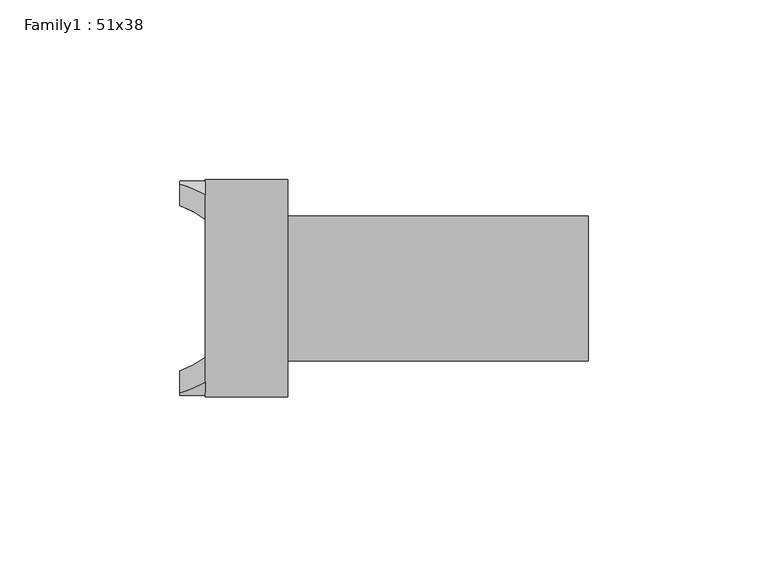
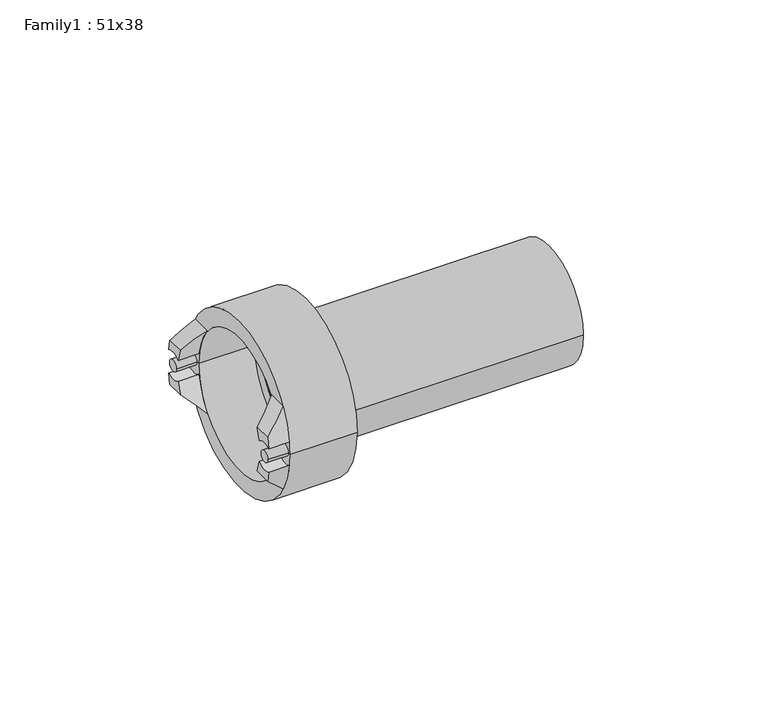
"""IFC4 building model written with IfcOpenShell, lengths in millimetres: proxy geometry, Family1 : 51x38."""

from ifc_helpers import new_model, si_unit, point, frame, frame_2d, origin, place, context, project, spatial, polyline, circle_curve, ellipse_curve, trimmed, segment, composite_curve, outline, extrude, source, transform, mapped, element, save
from ifc_brep_helpers import plane_surface, cylinder_surface, revolved_surface, advanced_brep


def family1_51x38_9dc83d4e(model_context):
    return source(origin(), model_context, "Body", "SolidModel", [
        advanced_brep(
        [(-113.7, -24.0455963, 3.8382023), (-113.7, -29.8455963, 4.2735091), (-113.7, -29.0857164, 7.94), (-113.7, -23.0190986, 7.94), (-106.6, -26.1538238, 15.0), (-106.6, -29.8455963, 4.2735091), (-106.6, -24.0455963, 3.8382023), (-106.6, -19.181306, 15.0)],
        [
            (0, 1, circle_curve(frame((-113.7, -27.25, 0.0), z_axis=(1.0, 0.0, 0.0), x_axis=(0.0, 1.0, 0.0)), 5.0)),
            (1, 2, circle_curve(frame((-113.7, 0.0, 0.0), z_axis=(-1.0, 0.0, 0.0), x_axis=(0.0, 1.0, 0.0)), 30.15)),
            (2, 3),
            (3, 0, circle_curve(frame((-113.7, 0.0, 0.0), z_axis=(1.0, 0.0, 0.0), x_axis=(0.0, 1.0, 0.0)), 24.35)),
            (4, 5, circle_curve(frame((-106.6, 0.0, 0.0), z_axis=(1.0, 0.0, 0.0), x_axis=(0.0, 1.0, 0.0)), 30.15)),
            (5, 6, circle_curve(frame((-106.6, -27.25, 0.0), z_axis=(-1.0, 0.0, 0.0), x_axis=(0.0, 1.0, 0.0)), 5.0)),
            (6, 7, circle_curve(frame((-106.6, 0.0, 0.0), z_axis=(-1.0, 0.0, 0.0), x_axis=(0.0, 1.0, 0.0)), 24.35)),
            (7, 4),
            (6, 0),
            (3, 7, ellipse_curve(frame((-121.6849858, 0.0, 0.0), z_axis=(-0.705106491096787, 0.0, 0.7091014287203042), x_axis=(0.7091014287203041, 0.0, 0.705106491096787)), 34.5337907, 24.35)),
            (4, 2, ellipse_curve(frame((-121.6849858, 0.0, 0.0), z_axis=(0.705106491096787, 0.0, -0.7091014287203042), x_axis=(-0.7091014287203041, 0.0, -0.705106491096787)), 42.7594986, 30.15)),
            (1, 5),
        ],
        [
            plane_surface(frame((-113.7, -26.1538238, 15.0), z_axis=(-1.0, 0.0, 0.0), x_axis=(0.0, 1.0, 0.0))),
            plane_surface(frame((-106.6, -26.1538238, 15.0), z_axis=(1.0, 0.0, 0.0), x_axis=(0.0, -1.0, 0.0))),
            revolved_surface(polyline([(-97.19702547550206, 24.35, 0.0), (-146.17294612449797, 24.35, 0.0)]), (-106.6, 0.0, 0.0), (1.0, 0.0, 0.0)),
            cylinder_surface(frame((-106.6, 0.0, 0.0), z_axis=(-1.0, 0.0, 0.0), x_axis=(0.0, 1.0, 0.0)), 30.15),
            revolved_surface(polyline([(-113.7, -22.25, 0.0), (-106.6, -22.25, 0.0)]), (-106.6, -27.25, 0.0), (-1.0, 0.0, 0.0)),
            plane_surface(frame((-106.6, 30.15, 15.0), z_axis=(-0.705106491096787, 0.0, 0.7091014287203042), x_axis=(0.0, -1.0, 0.0))),
        ],
        [
            (0, [[1, 2, 3, 4]]),
            (1, [[5, 6, 7, 8]]),
            (2, [[-7, 9, -4, 10]]),
            (3, [[-5, 11, -2, 12]]),
            (4, [[-1, -9, -6, -12]]),
            (5, [[-3, -11, -8, -10]]),
        ],
    ),
        advanced_brep(
        [(-113.7, -29.8455963, -4.2735091), (-113.7, -24.0455963, -3.8382023), (-113.7, -23.0190986, -7.94), (-113.7, -29.0857164, -7.94), (-106.6, -29.8455963, -4.2735091), (-106.6, -26.1538238, -15.0), (-106.6, -19.181306, -15.0), (-106.6, -24.0455963, -3.8382023)],
        [
            (0, 1, circle_curve(frame((-113.7, -27.25, 0.0), z_axis=(1.0, 0.0, 0.0), x_axis=(0.0, 1.0, 0.0)), 5.0)),
            (1, 2, circle_curve(frame((-113.7, 0.0, 0.0), z_axis=(1.0, 0.0, 0.0), x_axis=(0.0, 1.0, 0.0)), 24.35)),
            (2, 3),
            (3, 0, circle_curve(frame((-113.7, 0.0, 0.0), z_axis=(-1.0, 0.0, 0.0), x_axis=(0.0, 1.0, 0.0)), 30.15)),
            (4, 5, circle_curve(frame((-106.6, 0.0, 0.0), z_axis=(1.0, 0.0, 0.0), x_axis=(0.0, 1.0, 0.0)), 30.15)),
            (5, 6),
            (6, 7, circle_curve(frame((-106.6, 0.0, 0.0), z_axis=(-1.0, 0.0, 0.0), x_axis=(0.0, 1.0, 0.0)), 24.35)),
            (7, 4, circle_curve(frame((-106.6, -27.25, 0.0), z_axis=(-1.0, 0.0, 0.0), x_axis=(0.0, 1.0, 0.0)), 5.0)),
            (6, 2, ellipse_curve(frame((-121.6849858, 0.0, 0.0), z_axis=(-0.7051064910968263, 0.0, -0.7091014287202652), x_axis=(0.7091014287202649, 0.0, -0.7051064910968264)), 34.5337907, 24.35)),
            (1, 7),
            (4, 0),
            (3, 5, ellipse_curve(frame((-121.6849858, 0.0, 0.0), z_axis=(0.7051064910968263, 0.0, 0.7091014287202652), x_axis=(-0.7091014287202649, 0.0, 0.7051064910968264)), 42.7594986, 30.15)),
        ],
        [
            plane_surface(frame((-113.7, -26.1538238, 15.0), z_axis=(-1.0, 0.0, 0.0), x_axis=(0.0, 1.0, 0.0))),
            plane_surface(frame((-106.6, -26.1538238, 15.0), z_axis=(1.0, 0.0, 0.0), x_axis=(0.0, -1.0, 0.0))),
            revolved_surface(polyline([(-97.19702547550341, 24.35, 0.0), (-146.1729461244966, 24.35, 0.0)]), (-106.6, 0.0, 0.0), (1.0, 0.0, 0.0)),
            cylinder_surface(frame((-106.6, 0.0, 0.0), z_axis=(-1.0, 0.0, 0.0), x_axis=(0.0, 1.0, 0.0)), 30.15),
            revolved_surface(polyline([(-113.7, -22.25, 0.0), (-106.6, -22.25, 0.0)]), (-106.6, -27.25, 0.0), (-1.0, 0.0, 0.0)),
            plane_surface(frame((-113.7, 30.15, -7.94), z_axis=(-0.7051064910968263, 0.0, -0.7091014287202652), x_axis=(0.0, -1.0, 0.0))),
        ],
        [
            (0, [[1, 2, 3, 4]]),
            (1, [[5, 6, 7, 8]]),
            (2, [[-7, 9, -2, 10]]),
            (3, [[-5, 11, -4, 12]]),
            (4, [[-1, -11, -8, -10]]),
            (5, [[-3, -9, -6, -12]]),
        ],
    ),
        advanced_brep(
        [(-113.7, 29.8455963, 4.2735091), (-113.7, 24.0455963, 3.8382023), (-113.7, 23.0190986, 7.94), (-113.7, 29.0857164, 7.94), (-106.6, 29.8455963, 4.2735091), (-106.6, 26.1538238, 15.0), (-106.6, 19.181306, 15.0), (-106.6, 24.0455963, 3.8382023)],
        [
            (0, 1, circle_curve(frame((-113.7, 27.25, 0.0), z_axis=(1.0, 0.0, 0.0), x_axis=(0.0, 1.0, 0.0)), 5.0)),
            (1, 2, circle_curve(frame((-113.7, 0.0, 0.0), z_axis=(1.0, 0.0, 0.0), x_axis=(0.0, 1.0, 0.0)), 24.35)),
            (2, 3),
            (3, 0, circle_curve(frame((-113.7, 0.0, 0.0), z_axis=(-1.0, 0.0, 0.0), x_axis=(0.0, 1.0, 0.0)), 30.15)),
            (4, 5, circle_curve(frame((-106.6, 0.0, 0.0), z_axis=(1.0, 0.0, 0.0), x_axis=(0.0, 1.0, 0.0)), 30.15)),
            (5, 6),
            (6, 7, circle_curve(frame((-106.6, 0.0, 0.0), z_axis=(-1.0, 0.0, 0.0), x_axis=(0.0, 1.0, 0.0)), 24.35)),
            (7, 4, circle_curve(frame((-106.6, 27.25, 0.0), z_axis=(-1.0, 0.0, 0.0), x_axis=(0.0, 1.0, 0.0)), 5.0)),
            (6, 2, ellipse_curve(frame((-121.6849858, 0.0, 0.0), z_axis=(-0.705106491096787, 0.0, 0.7091014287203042), x_axis=(0.7091014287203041, 0.0, 0.705106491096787)), 34.5337907, 24.35)),
            (1, 7),
            (4, 0),
            (3, 5, ellipse_curve(frame((-121.6849858, 0.0, 0.0), z_axis=(0.705106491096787, 0.0, -0.7091014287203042), x_axis=(-0.7091014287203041, 0.0, -0.705106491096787)), 42.7594986, 30.15)),
        ],
        [
            plane_surface(frame((-113.7, -26.1538238, 15.0), z_axis=(-1.0, 0.0, 0.0), x_axis=(0.0, 1.0, 0.0))),
            plane_surface(frame((-106.6, -26.1538238, 15.0), z_axis=(1.0, 0.0, 0.0), x_axis=(0.0, -1.0, 0.0))),
            revolved_surface(polyline([(-97.19702547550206, 24.35, 0.0), (-146.17294612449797, 24.35, 0.0)]), (-106.6, 0.0, 0.0), (1.0, 0.0, 0.0)),
            cylinder_surface(frame((-106.6, 0.0, 0.0), z_axis=(-1.0, 0.0, 0.0), x_axis=(0.0, 1.0, 0.0)), 30.15),
            revolved_surface(polyline([(-113.7, 32.25, 0.0), (-106.6, 32.25, 0.0)]), (-106.6, 27.25, 0.0), (-1.0, 0.0, 0.0)),
            plane_surface(frame((-106.6, 30.15, 15.0), z_axis=(-0.705106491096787, 0.0, 0.7091014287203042), x_axis=(0.0, -1.0, 0.0))),
        ],
        [
            (0, [[1, 2, 3, 4]]),
            (1, [[5, 6, 7, 8]]),
            (2, [[-7, 9, -2, 10]]),
            (3, [[-5, 11, -4, 12]]),
            (4, [[-1, -11, -8, -10]]),
            (5, [[-3, -9, -6, -12]]),
        ],
    ),
        advanced_brep(
        [(-113.7, 24.0455963, -3.8382023), (-113.7, 29.8455963, -4.2735091), (-113.7, 29.0857164, -7.94), (-113.7, 23.0190986, -7.94), (-106.6, 26.1538238, -15.0), (-106.6, 29.8455963, -4.2735091), (-106.6, 24.0455963, -3.8382023), (-106.6, 19.181306, -15.0)],
        [
            (0, 1, circle_curve(frame((-113.7, 27.25, 0.0), z_axis=(1.0, 0.0, 0.0), x_axis=(0.0, 1.0, 0.0)), 5.0)),
            (1, 2, circle_curve(frame((-113.7, 0.0, 0.0), z_axis=(-1.0, 0.0, 0.0), x_axis=(0.0, 1.0, 0.0)), 30.15)),
            (2, 3),
            (3, 0, circle_curve(frame((-113.7, 0.0, 0.0), z_axis=(1.0, 0.0, 0.0), x_axis=(0.0, 1.0, 0.0)), 24.35)),
            (4, 5, circle_curve(frame((-106.6, 0.0, 0.0), z_axis=(1.0, 0.0, 0.0), x_axis=(0.0, 1.0, 0.0)), 30.15)),
            (5, 6, circle_curve(frame((-106.6, 27.25, 0.0), z_axis=(-1.0, 0.0, 0.0), x_axis=(0.0, 1.0, 0.0)), 5.0)),
            (6, 7, circle_curve(frame((-106.6, 0.0, 0.0), z_axis=(-1.0, 0.0, 0.0), x_axis=(0.0, 1.0, 0.0)), 24.35)),
            (7, 4),
            (6, 0),
            (3, 7, ellipse_curve(frame((-121.6849858, 0.0, 0.0), z_axis=(-0.7051064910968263, 0.0, -0.7091014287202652), x_axis=(0.7091014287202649, 0.0, -0.7051064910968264)), 34.5337907, 24.35)),
            (4, 2, ellipse_curve(frame((-121.6849858, 0.0, 0.0), z_axis=(0.7051064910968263, 0.0, 0.7091014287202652), x_axis=(-0.7091014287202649, 0.0, 0.7051064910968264)), 42.7594986, 30.15)),
            (1, 5),
        ],
        [
            plane_surface(frame((-113.7, -26.1538238, 15.0), z_axis=(-1.0, 0.0, 0.0), x_axis=(0.0, 1.0, 0.0))),
            plane_surface(frame((-106.6, -26.1538238, 15.0), z_axis=(1.0, 0.0, 0.0), x_axis=(0.0, -1.0, 0.0))),
            revolved_surface(polyline([(-97.19702547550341, 24.35, 0.0), (-146.1729461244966, 24.35, 0.0)]), (-106.6, 0.0, 0.0), (1.0, 0.0, 0.0)),
            cylinder_surface(frame((-106.6, 0.0, 0.0), z_axis=(-1.0, 0.0, 0.0), x_axis=(0.0, 1.0, 0.0)), 30.15),
            revolved_surface(polyline([(-113.7, 32.25, 0.0), (-106.6, 32.25, 0.0)]), (-106.6, 27.25, 0.0), (-1.0, 0.0, 0.0)),
            plane_surface(frame((-113.7, 30.15, -7.94), z_axis=(-0.7051064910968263, 0.0, -0.7091014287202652), x_axis=(0.0, -1.0, 0.0))),
        ],
        [
            (0, [[1, 2, 3, 4]]),
            (1, [[5, 6, 7, 8]]),
            (2, [[-7, 9, -4, 10]]),
            (3, [[-5, 11, -2, 12]]),
            (4, [[-1, -9, -6, -12]]),
            (5, [[-3, -11, -8, -10]]),
        ],
    ),
        extrude(outline(composite_curve([segment(trimmed(circle_curve(frame_2d((-27.25, 0.0)), 2.0), [point((-29.25, 0.0))], [point((-25.25, 0.0))], False, "CARTESIAN"), True, "CONTINUOUS"), segment(trimmed(circle_curve(frame_2d((-27.25, 0.0)), 2.0), [point((-25.25, 0.0))], [point((-29.25, 0.0))], False, "CARTESIAN"), True, "CONTINUOUS")], self_intersect=False)), frame((-113.7, 0.0, 0.0), z_axis=(1.0, 0.0, 0.0), x_axis=(0.0, 1.0, 0.0)), (0.0, 0.0, 1.0), 7.1),
        extrude(outline(composite_curve([segment(trimmed(circle_curve(frame_2d((27.25, 0.0)), 2.0), [point((25.25, 0.0))], [point((29.25, 0.0))], False, "CARTESIAN"), True, "CONTINUOUS"), segment(trimmed(circle_curve(frame_2d((27.25, 0.0)), 2.0), [point((29.25, 0.0))], [point((25.25, 0.0))], False, "CARTESIAN"), True, "CONTINUOUS")], self_intersect=False)), frame((-113.7, 0.0, 0.0), z_axis=(1.0, 0.0, 0.0), x_axis=(0.0, 1.0, 0.0)), (0.0, 0.0, 1.0), 7.1),
        advanced_brep(
        [(-87.3, -20.2, 0.0), (-87.3, 20.2, 0.0), (-87.3, 24.2, 0.0), (-87.3, -24.2, 0.0), (-83.6, -20.2, 0.0), (-83.6, 20.2, 0.0), (-83.6, -30.3, 0.0), (-83.6, 30.3, 0.0), (-106.6, -30.3, 0.0), (-106.6, 30.3, 0.0), (-106.6, -24.2, 0.0), (-106.6, 24.2, 0.0)],
        [
            (0, 1, circle_curve(frame((-87.3, 0.0, 0.0), z_axis=(1.0, 0.0, 0.0), x_axis=(0.0, 1.0, 0.0)), 20.2)),
            (1, 2),
            (2, 3, circle_curve(frame((-87.3, 0.0, 0.0), z_axis=(-1.0, 0.0, 0.0), x_axis=(0.0, 1.0, 0.0)), 24.2)),
            (3, 0),
            (1, 0, circle_curve(frame((-87.3, 0.0, 0.0), z_axis=(1.0, 0.0, 0.0), x_axis=(0.0, 1.0, 0.0)), 20.2)),
            (3, 2, circle_curve(frame((-87.3, 0.0, 0.0), z_axis=(-1.0, 0.0, 0.0), x_axis=(0.0, 1.0, 0.0)), 24.2)),
            (4, 5, circle_curve(frame((-83.6, 0.0, 0.0), z_axis=(1.0, 0.0, 0.0), x_axis=(0.0, 1.0, 0.0)), 20.2)),
            (5, 1),
            (0, 4),
            (5, 4, circle_curve(frame((-83.6, 0.0, 0.0), z_axis=(1.0, 0.0, 0.0), x_axis=(0.0, 1.0, 0.0)), 20.2)),
            (6, 7, circle_curve(frame((-83.6, 0.0, 0.0), z_axis=(1.0, 0.0, 0.0), x_axis=(0.0, 1.0, 0.0)), 30.3)),
            (7, 5),
            (4, 6),
            (7, 6, circle_curve(frame((-83.6, 0.0, 0.0), z_axis=(1.0, 0.0, 0.0), x_axis=(0.0, 1.0, 0.0)), 30.3)),
            (8, 9, circle_curve(frame((-106.6, 0.0, 0.0), z_axis=(1.0, 0.0, 0.0), x_axis=(0.0, 1.0, 0.0)), 30.3)),
            (9, 7),
            (6, 8),
            (9, 8, circle_curve(frame((-106.6, 0.0, 0.0), z_axis=(1.0, 0.0, 0.0), x_axis=(0.0, 1.0, 0.0)), 30.3)),
            (10, 11, circle_curve(frame((-106.6, 0.0, 0.0), z_axis=(1.0, 0.0, 0.0), x_axis=(0.0, 1.0, 0.0)), 24.2)),
            (11, 9),
            (8, 10),
            (11, 10, circle_curve(frame((-106.6, 0.0, 0.0), z_axis=(1.0, 0.0, 0.0), x_axis=(0.0, 1.0, 0.0)), 24.2)),
            (2, 11),
            (10, 3),
        ],
        [
            plane_surface(frame((-87.3, 0.0, 0.0), z_axis=(-1.0, 0.0, 0.0), x_axis=(0.0, 1.0, 0.0))),
            revolved_surface(polyline([(-87.30000000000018, 20.2, 0.0), (-83.59999999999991, 20.2, 0.0)]), (-2620.5826241, 0.0, 0.0), (-1.0, 0.0, 0.0)),
            plane_surface(frame((-83.6, 0.0, 0.0), z_axis=(1.0, 0.0, 0.0), x_axis=(0.0, 1.0, 0.0))),
            cylinder_surface(frame((-2620.5826241, 0.0, 0.0), z_axis=(-1.0, 0.0, 0.0), x_axis=(0.0, 1.0, 0.0)), 30.3),
            plane_surface(frame((-106.6, 0.0, 0.0), z_axis=(-1.0, 0.0, 0.0), x_axis=(0.0, 1.0, 0.0))),
            revolved_surface(polyline([(-106.59999999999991, 24.2, 0.0), (-87.30000000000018, 24.2, 0.0)]), (-2620.5826241, 0.0, 0.0), (-1.0, 0.0, 0.0)),
        ],
        [
            (0, [[1, 2, 3, 4]]),
            (0, [[5, -4, 6, -2]]),
            (1, [[7, 8, -1, 9]]),
            (1, [[10, -9, -5, -8]]),
            (2, [[11, 12, -7, 13]]),
            (2, [[14, -13, -10, -12]]),
            (3, [[15, 16, -11, 17]]),
            (3, [[18, -17, -14, -16]]),
            (4, [[19, 20, -15, 21]]),
            (4, [[22, -21, -18, -20]]),
            (5, [[-3, 23, -19, 24]]),
            (5, [[-6, -24, -22, -23]]),
        ],
    ),
        advanced_brep(
        [(0.0, -20.2, 0.0), (0.0, 20.2, 0.0), (0.0, 0.0, 0.0), (-87.3, -20.2, 0.0), (-87.3, 20.2, 0.0), (-87.3, 0.0, 0.0)],
        [
            (0, 1, circle_curve(frame((0.0, 0.0, 0.0), z_axis=(1.0, 0.0, 0.0), x_axis=(0.0, 1.0, 0.0)), 20.2)),
            (1, 2),
            (2, 0),
            (1, 0, circle_curve(frame((0.0, 0.0, 0.0), z_axis=(1.0, 0.0, 0.0), x_axis=(0.0, 1.0, 0.0)), 20.2)),
            (3, 4, circle_curve(frame((-87.3, 0.0, 0.0), z_axis=(1.0, 0.0, 0.0), x_axis=(0.0, 1.0, 0.0)), 20.2)),
            (4, 1),
            (0, 3),
            (4, 3, circle_curve(frame((-87.3, 0.0, 0.0), z_axis=(1.0, 0.0, 0.0), x_axis=(0.0, 1.0, 0.0)), 20.2)),
            (5, 4),
            (3, 5),
        ],
        [
            plane_surface(frame((0.0, 0.0, 0.0), z_axis=(1.0, 0.0, 0.0), x_axis=(0.0, 1.0, 0.0))),
            cylinder_surface(frame((25.0, 0.0, 0.0), z_axis=(-1.0, 0.0, 0.0), x_axis=(0.0, 1.0, 0.0)), 20.2),
            plane_surface(frame((-87.3, 0.0, 0.0), z_axis=(-1.0, 0.0, 0.0), x_axis=(0.0, 1.0, 0.0))),
        ],
        [
            (0, [[1, 2, 3]]),
            (0, [[4, -3, -2]]),
            (1, [[5, 6, -1, 7]]),
            (1, [[8, -7, -4, -6]]),
            (2, [[9, -5, 10]]),
            (2, [[-10, -8, -9]]),
        ],
    ),
    ])


if __name__ == "__main__":
    model = new_model("IFC4")
    model_context = context("Model", 3, world=origin())
    ifc_project = project(units=[si_unit("LENGTHUNIT", "METRE", prefix="MILLI")], contexts=[model_context])
    site = spatial("IfcSite", under=ifc_project)
    building = spatial("IfcBuilding", under=site)
    placement = place(None, origin())
    family1_51x38_shape = family1_51x38_9dc83d4e(model_context)
    element("IfcBuildingElementProxy", 1, Name="Family1 : 51x38", ObjectType="Family1 : 51x38", at=placement, inside=building, context=model_context, shape_type="MappedRepresentation", body=[
        mapped(family1_51x38_shape, transform((0.0, 0.0, 0.0), x_axis=(1.0, 0.0, 0.0), y_axis=(0.0, 1.0, 0.0), z_axis=(0.0, 0.0, 1.0))),
    ])
    save(model, "model.ifc")
